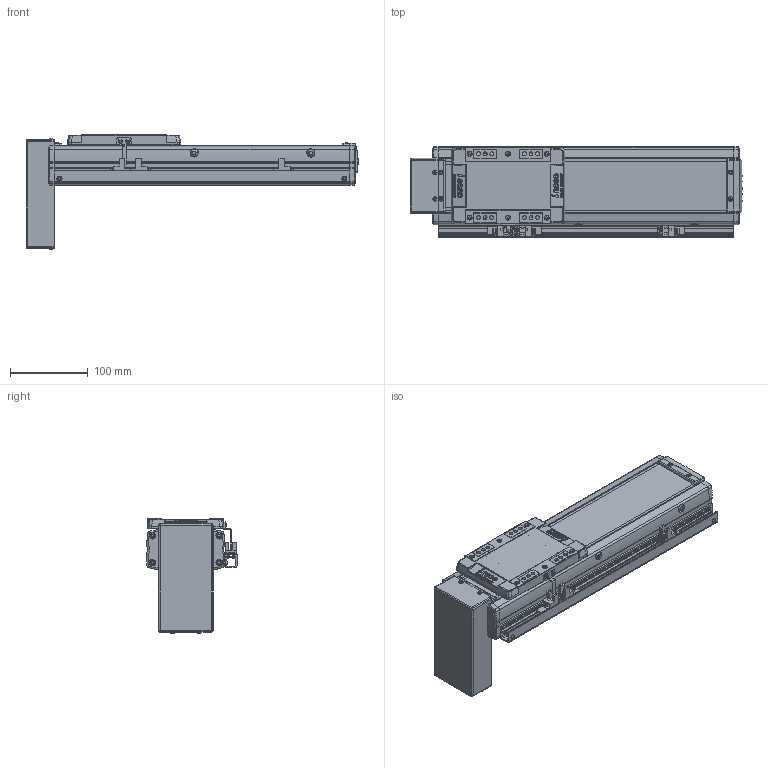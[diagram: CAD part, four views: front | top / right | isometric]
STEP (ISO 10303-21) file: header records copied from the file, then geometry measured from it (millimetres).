
FILE_DESCRIPTION(('STEP AP214'),'1');
FILE_NAME('Z:/Web/3D/SAN100/SAN100 양산용 (STEP)/SAN100ㅁㅁ-200PB+3SR.stp','2013-04-25T01:16:34',(' '),(' '),'Spatial InterOp 3D',' ',' ');
FILE_SCHEMA(('automotive_design'));
Length unit declared in the file: millimetre
Products named in the file (55): EE-SX674; SBK-SX674-352; 스크루 : Round - M3.0 x 6.0; M3.0 x 6.0; SRL-16x17-380L; SGD-SAN100; BTCV-SAN100; 스크루 : Round - M4.0 x 10.0; FRCV-SAN100; SUS COVER; SFX-SAN100; RRCV-SAN100; FRBL-SAN100; SLBL-SAN100; SLCV-SAN100; 스크루 : Countersunk - M3.0 x 6.0; BASE; 스크루 : Round - M5.0 x 6.0
Bounding box: 426.5 x 116 x 148.36 mm (x, y, z)
Volume: 1562100.7 mm3; surface area: 411108.7 mm2
Topology: 55 solids, 58 shells, 2477 faces, 6414 edges, 4159 vertices
Faces by surface type: plane 1360, cylinder 801, cone 202, sphere 72, torus 30, bspline 12
Entity records: 97182 total; most frequent: CARTESIAN_POINT 14155, DIRECTION 13579, ORIENTED_EDGE 12680, EDGE_CURVE 6340, AXIS2_PLACEMENT_3D 4804, VERTEX_POINT 4159, LINE 3971, VECTOR 3971
